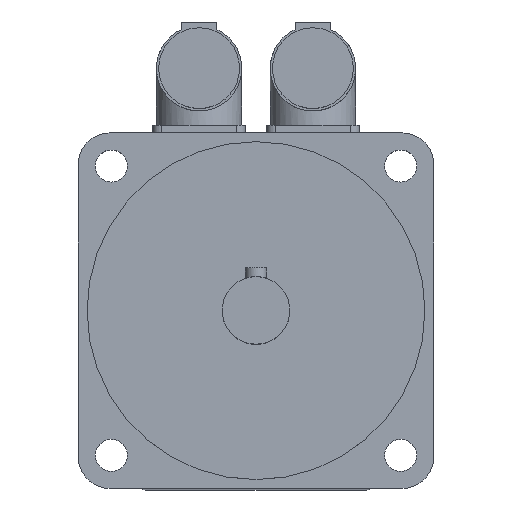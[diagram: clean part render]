
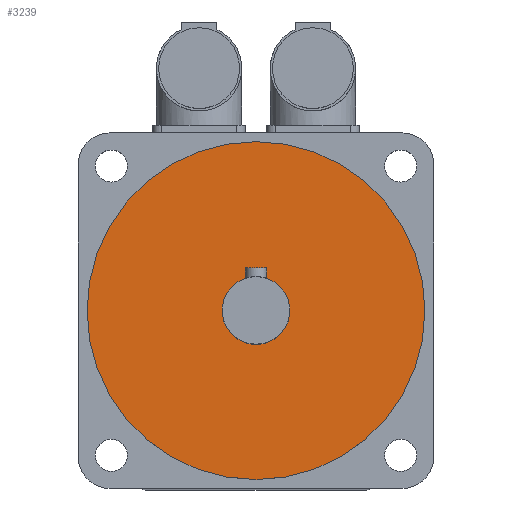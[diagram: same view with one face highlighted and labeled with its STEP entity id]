
A CAD part, top view. The second image highlights one B-rep face of the part: STEP entity #3239.
In plain terms, the highlighted planar face has unit normal (0, 0, 1).
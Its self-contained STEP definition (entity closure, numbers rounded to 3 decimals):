
#36=FACE_BOUND('',#567,.T.);
#71=PLANE('',#3478);
#182=CIRCLE('',#3473,9.5);
#183=CIRCLE('',#3476,47.5);
#368=FACE_OUTER_BOUND('',#566,.T.);
#566=EDGE_LOOP('',(#2309));
#567=EDGE_LOOP('',(#2310));
#1393=VERTEX_POINT('',#5230);
#1394=VERTEX_POINT('',#5234);
#1743=EDGE_CURVE('',#1393,#1393,#182,.T.);
#1744=EDGE_CURVE('',#1394,#1394,#183,.T.);
#2309=ORIENTED_EDGE('',*,*,#1744,.T.);
#2310=ORIENTED_EDGE('',*,*,#1743,.T.);
#3239=ADVANCED_FACE('',(#368,#36),#71,.F.);
#3473=AXIS2_PLACEMENT_3D('',#5231,#3962,#3963);
#3476=AXIS2_PLACEMENT_3D('',#5235,#3968,#3969);
#3478=AXIS2_PLACEMENT_3D('',#5238,#3972,#3973);
#3962=DIRECTION('center_axis',(0.,0.,-1.));
#3963=DIRECTION('ref_axis',(-1.,0.,0.));
#3968=DIRECTION('center_axis',(0.,0.,
1.));
#3969=DIRECTION('ref_axis',(-1.,0.,0.));
#3972=DIRECTION('center_axis',(0.,0.,-1.));
#3973=DIRECTION('ref_axis',(-1.,0.,0.));
#5230=CARTESIAN_POINT('',(9.5,0.,226.));
#5231=CARTESIAN_POINT('Origin',(0.,0.,
226.));
#5234=CARTESIAN_POINT('',(47.5,0.,226.));
#5235=CARTESIAN_POINT('Origin',(0.,0.,
226.));
#5238=CARTESIAN_POINT('Origin',(0.,0.,
226.));
